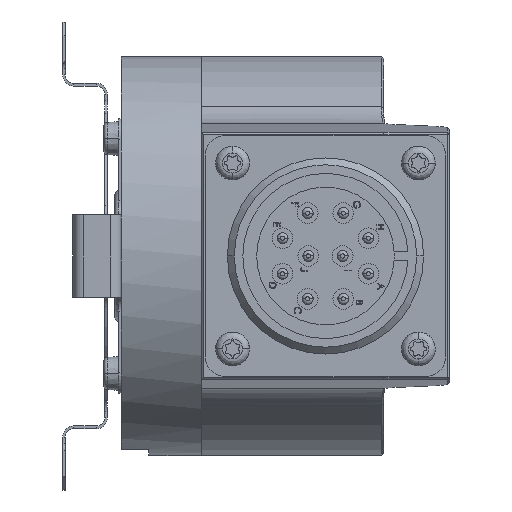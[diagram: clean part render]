
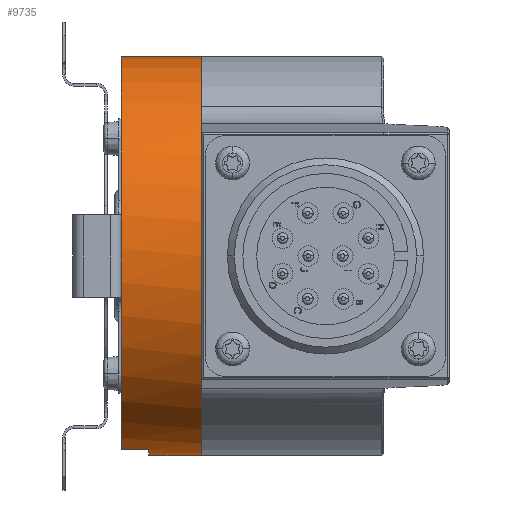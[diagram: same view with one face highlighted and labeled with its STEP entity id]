
A CAD part, front view. The second image highlights one B-rep face of the part: STEP entity #9735.
In plain terms, the highlighted cylindrical face has radius 29 mm (diameter 58 mm), a partial arc.
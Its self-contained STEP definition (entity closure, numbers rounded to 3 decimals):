
#14 = VECTOR ( 'NONE', #15283, 1000. ) ;
#587 = LINE ( 'NONE', #20938, #3829 ) ;
#1655 = LINE ( 'NONE', #10693, #14 ) ;
#3055 = CARTESIAN_POINT ( 'NONE',  ( 8.068, 25.423, 0. ) ) ;
#3727 = DIRECTION ( 'NONE',  ( 0., 0., -1. ) ) ;
#3809 = CARTESIAN_POINT ( 'NONE',  ( 8.068, 25.423, -29. ) ) ;
#3829 = VECTOR ( 'NONE', #25379, 1000. ) ;
#4123 = EDGE_CURVE ( 'NONE', #15027, #6076, #19295, .T. ) ;
#5151 = ORIENTED_EDGE ( 'NONE', *, *, #12895, .F. ) ;
#6076 = VERTEX_POINT ( 'NONE', #16219 ) ;
#6091 = DIRECTION ( 'NONE',  ( 1., 0., 0. ) ) ;
#6519 = AXIS2_PLACEMENT_3D ( 'NONE', #22066, #24151, #15211 ) ;
#7562 = EDGE_CURVE ( 'NONE', #23668, #17600, #15652, .T. ) ;
#9410 = ORIENTED_EDGE ( 'NONE', *, *, #23708, .F. ) ;
#9735 = ADVANCED_FACE ( 'NONE', ( #23418 ), #10190, .T. ) ;
#9842 = CARTESIAN_POINT ( 'NONE',  ( 8.068, 25.423, 29. ) ) ;
#9883 = ORIENTED_EDGE ( 'NONE', *, *, #18685, .F. ) ;
#10190 = CYLINDRICAL_SURFACE ( 'NONE', #26678, 29. ) ;
#10205 = CARTESIAN_POINT ( 'NONE',  ( 8.068, 18.423, -28.142 ) ) ;
#10693 = CARTESIAN_POINT ( 'NONE',  ( 8.068, 25.423, -29. ) ) ;
#11858 = DIRECTION ( 'NONE',  ( 0., 0., 1. ) ) ;
#12895 = EDGE_CURVE ( 'NONE', #12989, #22465, #15437, .T. ) ;
#12989 = VERTEX_POINT ( 'NONE', #9842 ) ;
#14378 = ORIENTED_EDGE ( 'NONE', *, *, #4123, .T. ) ;
#15027 = VERTEX_POINT ( 'NONE', #26221 ) ;
#15211 = DIRECTION ( 'NONE',  ( 0., 0., -1. ) ) ;
#15283 = DIRECTION ( 'NONE',  ( 1., 0., 0. ) ) ;
#15437 = CIRCLE ( 'NONE', #18286, 29. ) ;
#15652 = CIRCLE ( 'NONE', #23841, 29. ) ;
#16219 = CARTESIAN_POINT ( 'NONE',  ( -3.622, 18.423, -28.142 ) ) ;
#16290 = CARTESIAN_POINT ( 'NONE',  ( 0.378, 25.423, 0. ) ) ;
#16682 = DIRECTION ( 'NONE',  ( 1., 0., 0. ) ) ;
#16823 = DIRECTION ( 'NONE',  ( 0., 0., -1. ) ) ;
#17600 = VERTEX_POINT ( 'NONE', #25219 ) ;
#18286 = AXIS2_PLACEMENT_3D ( 'NONE', #24356, #6091, #3727 ) ;
#18617 = EDGE_LOOP ( 'NONE', ( #9883, #14378, #9410, #25022, #26010, #5151 ) ) ;
#18685 = EDGE_CURVE ( 'NONE', #15027, #12989, #587, .T. ) ;
#19295 = CIRCLE ( 'NONE', #6519, 29. ) ;
#19469 = EDGE_CURVE ( 'NONE', #17600, #22465, #1655, .T. ) ;
#20938 = CARTESIAN_POINT ( 'NONE',  ( 8.068, 25.423, 29. ) ) ;
#22066 = CARTESIAN_POINT ( 'NONE',  ( -3.622, 25.423, 0. ) ) ;
#22465 = VERTEX_POINT ( 'NONE', #3809 ) ;
#23418 = FACE_OUTER_BOUND ( 'NONE', #18617, .T. ) ;
#23668 = VERTEX_POINT ( 'NONE', #25787 ) ;
#23708 = EDGE_CURVE ( 'NONE', #23668, #6076, #25934, .T. ) ;
#23841 = AXIS2_PLACEMENT_3D ( 'NONE', #16290, #25373, #11858 ) ;
#24151 = DIRECTION ( 'NONE',  ( 1., 0., 0. ) ) ;
#24356 = CARTESIAN_POINT ( 'NONE',  ( 8.068, 25.423, 0. ) ) ;
#25022 = ORIENTED_EDGE ( 'NONE', *, *, #7562, .T. ) ;
#25219 = CARTESIAN_POINT ( 'NONE',  ( 0.378, 25.423, -29. ) ) ;
#25333 = VECTOR ( 'NONE', #28314, 1000. ) ;
#25373 = DIRECTION ( 'NONE',  ( 1., 0., 0. ) ) ;
#25379 = DIRECTION ( 'NONE',  ( 1., 0., 0. ) ) ;
#25787 = CARTESIAN_POINT ( 'NONE',  ( 0.378, 18.423, -28.142 ) ) ;
#25934 = LINE ( 'NONE', #10205, #25333 ) ;
#26010 = ORIENTED_EDGE ( 'NONE', *, *, #19469, .T. ) ;
#26221 = CARTESIAN_POINT ( 'NONE',  ( -3.622, 25.423, 29. ) ) ;
#26678 = AXIS2_PLACEMENT_3D ( 'NONE', #3055, #16682, #16823 ) ;
#28314 = DIRECTION ( 'NONE',  ( -1., 0., 0. ) ) ;
